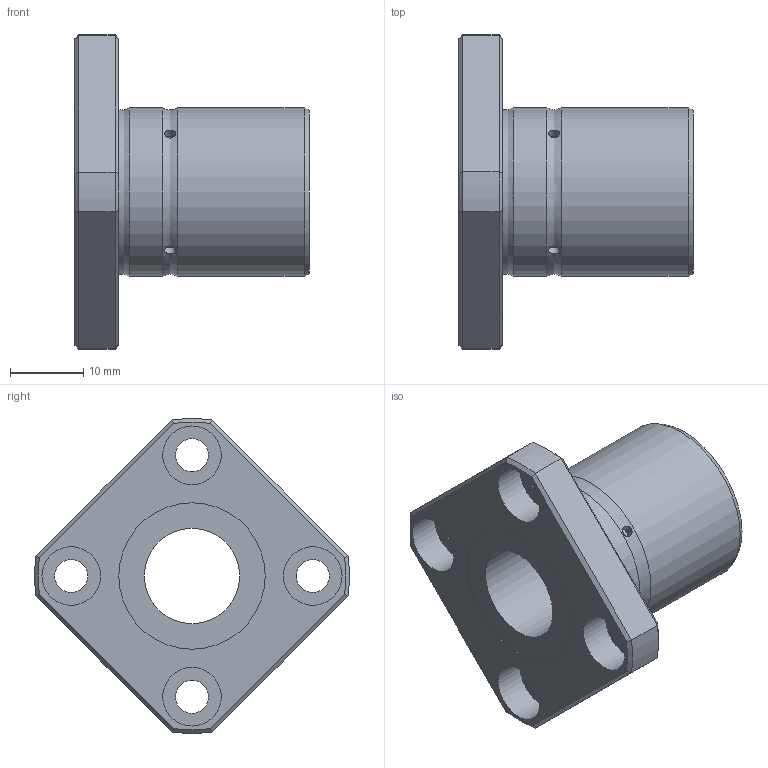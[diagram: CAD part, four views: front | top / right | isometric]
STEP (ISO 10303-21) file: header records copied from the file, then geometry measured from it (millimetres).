
FILE_DESCRIPTION((''),'2;1');
FILE_NAME('D:\製品 (図面)\カタログ用3D\リニアベアリング関連\STEP形式\LFK-OH\LFK13-OH.stp','2010-06-04T08:55:41',('Tsuchiya'),(''),'Autodesk Inventor 10','Autodesk Inventor 10','');
FILE_SCHEMA(('AUTOMOTIVE_DESIGN { 1 0 10303 214 1 1 1 1 }'));
Length unit declared in the file: millimetre
Products named in the file (1): LFK13-OH
Bounding box: 32 x 42.96 x 42.96 mm (x, y, z)
Volume: 12218.4 mm3; surface area: 6299.3 mm2
Topology: 1 solids, 1 shells, 57 faces, 116 edges, 72 vertices
Faces by surface type: cylinder 21, plane 21, cone 8, bspline 6, torus 1
Full cylindrical faces by diameter (mm): 4.5 x4, 8 x4, 13 x1, 20 x2, 23 x2
Entity records: 1919 total; most frequent: CARTESIAN_POINT 816, DIRECTION 216, ORIENTED_EDGE 184, EDGE_LOOP 98, AXIS2_PLACEMENT_3D 96, EDGE_CURVE 92, VERTEX_POINT 68, FACE_OUTER_BOUND 57
